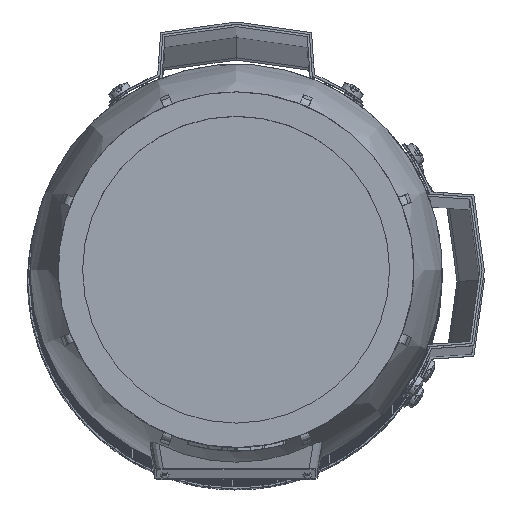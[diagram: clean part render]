
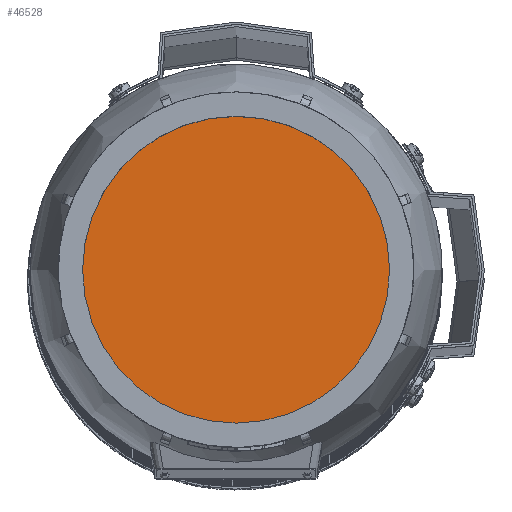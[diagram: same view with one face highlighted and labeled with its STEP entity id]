
A CAD part, top view. The second image highlights one B-rep face of the part: STEP entity #46528.
In plain terms, the highlighted planar face has unit normal (0, 0, 1) as drawn and (0, 1, 0) by its records, which use the part's own axes.
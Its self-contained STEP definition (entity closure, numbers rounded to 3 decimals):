
#9861=ORIENTED_EDGE('',*,*,#23917,.F.);
#23917=EDGE_CURVE('',#30945,#30945,#35675,.T.);
#30945=VERTEX_POINT('',#67187);
#35675=CIRCLE('',#49067,67.736);
#37798=EDGE_LOOP('',(#9861));
#41152=FACE_BOUND('',#37798,.T.);
#44524=PLANE('',#49066);
#46528=ADVANCED_FACE('',(#41152),#44524,.F.);
#49066=AXIS2_PLACEMENT_3D('',#67185,#53674,#53675);
#49067=AXIS2_PLACEMENT_3D('',#67186,#53676,#53677);
#53674=DIRECTION('',(0.,-1.,0.));
#53675=DIRECTION('',(0.,0.,-1.));
#53676=DIRECTION('',(0.,-1.,0.));
#53677=DIRECTION('',(0.,0.,-1.));
#67185=CARTESIAN_POINT('',(0.,154.,0.));
#67186=CARTESIAN_POINT('',(0.,154.,0.));
#67187=CARTESIAN_POINT('',(0.,154.,-67.736));
